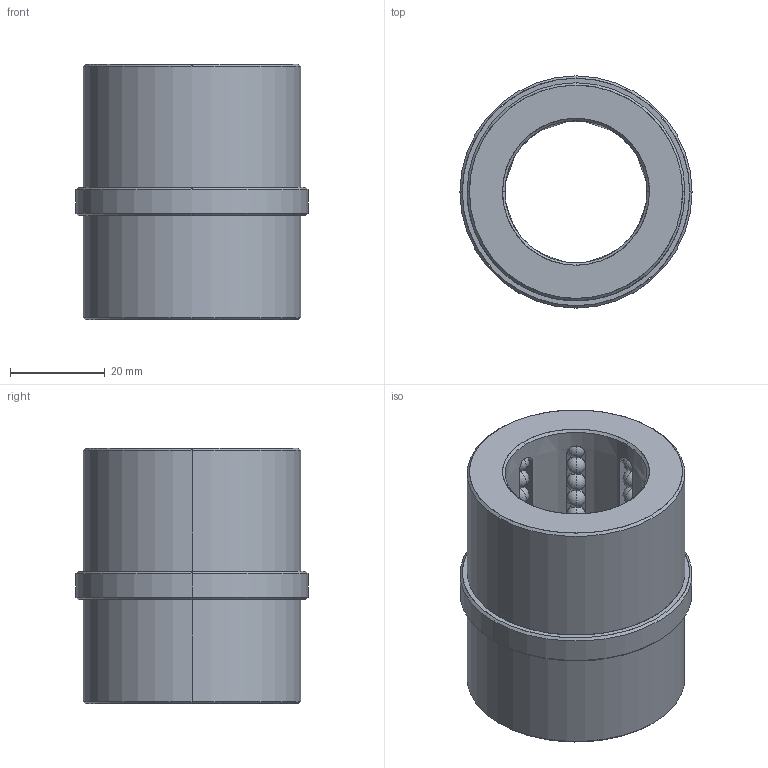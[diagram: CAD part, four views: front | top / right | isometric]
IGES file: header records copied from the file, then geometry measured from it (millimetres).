
Start section: START RECORD GO HERE.
Global section: file name: B844302232.igs; native system: DASSAULT SYSTEMES CATIA V5 R20 - www.3ds.com; preprocessor: CATIA Version 5 Release 20 ; author: Utente; organization: NB04-ASUS; date: 20200419.200614; units: millimetre
Bounding box: 49 x 49 x 54 mm (x, y, z)
Surface area: 22598.6 mm2 (no closed solid volume)
Topology: 0 solids, 0 shells, 428 faces, 1780 edges, 1076 vertices
Faces by surface type: revolution 400, plane 28
